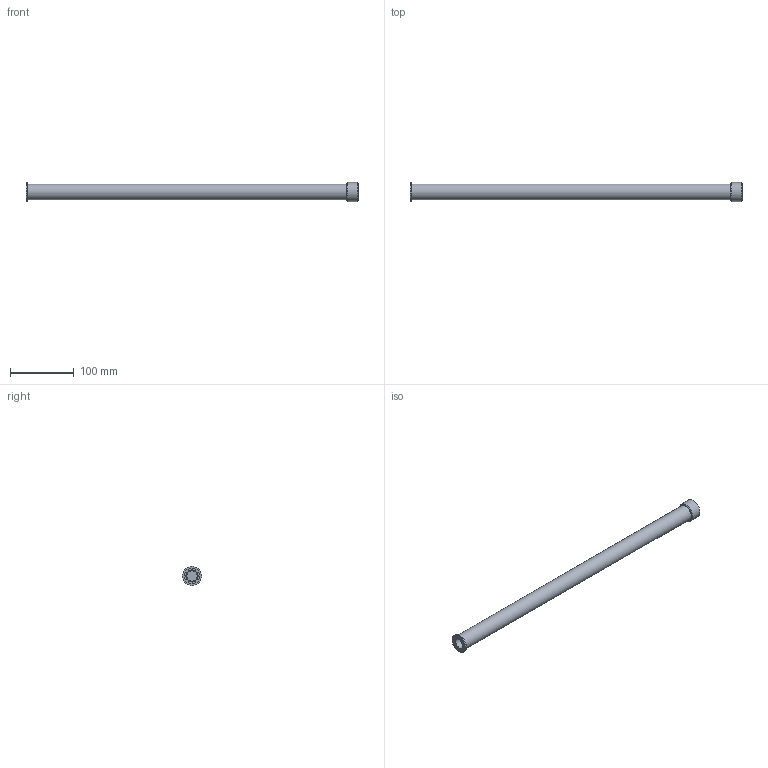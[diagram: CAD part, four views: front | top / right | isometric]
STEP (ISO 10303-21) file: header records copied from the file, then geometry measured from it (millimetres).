
FILE_DESCRIPTION( ( 'STEP AP203' ), '1' );
FILE_NAME( 'C:/Temp/Ganter_Step_05_03_2020/data/3_5/gn880_1/gn880_1_ans_abl/gn_880_1_a/Connector piece with drain hose GN 880.1-26-A-500-T.stp', '2020-03-12T13:42:28', ( 'License CC BY-ND 4.0' ), ( 'CADENAS' ), ' ', 'PARTsolutions', ' ' );
FILE_SCHEMA( ( 'CONFIG_CONTROL_DESIGN' ) );
Length unit declared in the file: millimetre
Products named in the file (5): Connector piece with drain hose GN 880.1-26-A-500-T; _Anschlussstueck mit Ablassschlauch GN 880.1-26-A-500-T_a; _Anschlussstueck mit Ablassschlauch GN 880.1-26-A-500-T_s; _Anschlussstueck mit Ablassschlauch GN 880.1-26-A-500-T_dk; _Anschlussstueck mit Ablassschlauch GN 880.1-26-A-500-T_dk2
Assembly tree (4 placements, depth 2):
  Connector piece with drain hose GN 880.1-26-A-500-T
    _Anschlussstueck mit Ablassschlauch GN 880.1-26-A-500-T_a
    _Anschlussstueck mit Ablassschlauch GN 880.1-26-A-500-T_s
    _Anschlussstueck mit Ablassschlauch GN 880.1-26-A-500-T_dk
    _Anschlussstueck mit Ablassschlauch GN 880.1-26-A-500-T_dk2
Bounding box: 520 x 30 x 30 mm (x, y, z)
Volume: 117866.8 mm3; surface area: 81396.9 mm2
Topology: 4 solids, 4 shells, 49 faces, 74 edges, 47 vertices
Faces by surface type: plane 22, cylinder 18, cone 6, torus 3
Full cylindrical faces by diameter (mm): 11.5 x1, 12.9 x1, 13 x3, 16.4 x1, 19 x7, 22 x1, 24.376 x1, 25 x1, 30 x2
Entity records: 1142 total; most frequent: DIRECTION 202, CARTESIAN_POINT 149, AXIS2_PLACEMENT_3D 101, EDGE_LOOP 94, ORIENTED_EDGE 94, FACE_OUTER_BOUND 70, ADVANCED_FACE 49, VERTEX_POINT 48
